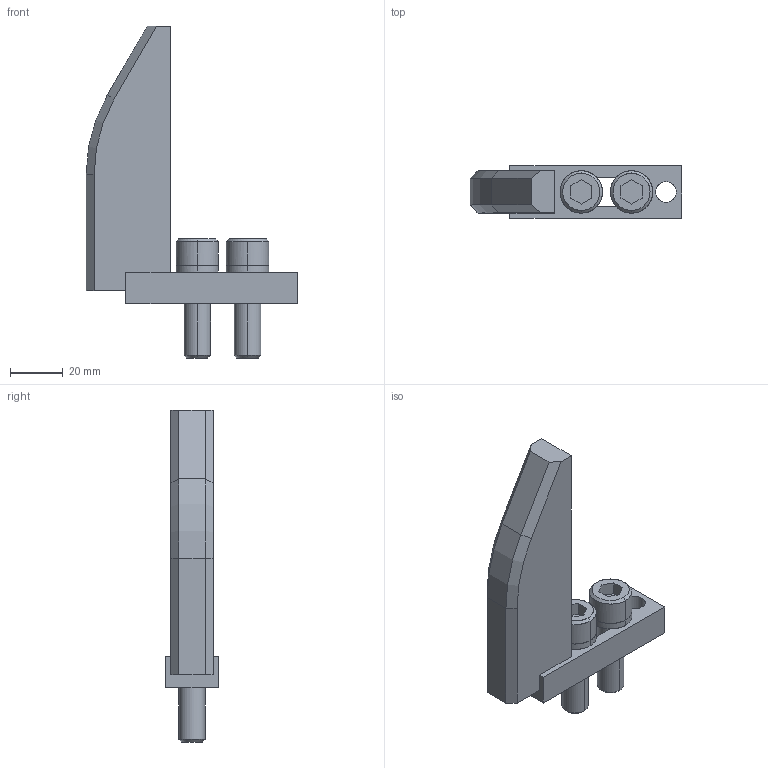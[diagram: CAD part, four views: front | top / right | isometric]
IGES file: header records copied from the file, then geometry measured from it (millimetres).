
Global section: file name: E:\UnigraphicsGraphicData\MISUMI_PRESS-PARTS\IGES\3d_enstd105-40-m10_01445_r00.igs; native system: NX V5.0; preprocessor: UGS NX IGES V5.0; author: MISUMI; date: 20110105.160628; units: millimetre
Bounding box: 80 x 20 x 125.5 mm (x, y, z)
Surface area: 18156.7 mm2 (no closed solid volume)
Topology: 0 solids, 0 shells, 74 faces, 457 edges, 457 vertices
Faces by surface type: bspline 74
